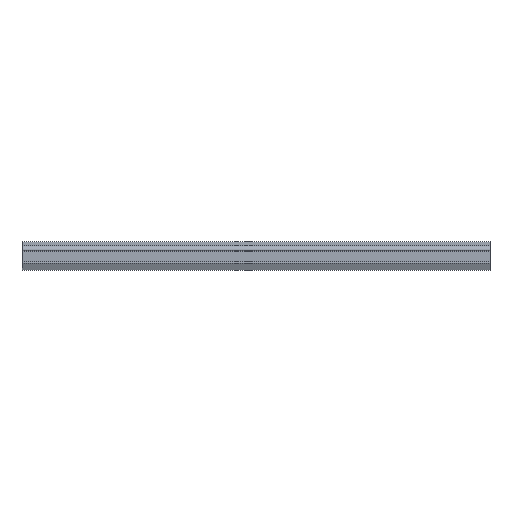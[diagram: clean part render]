
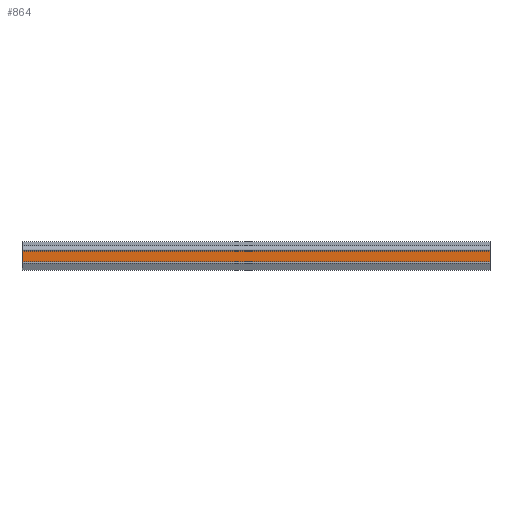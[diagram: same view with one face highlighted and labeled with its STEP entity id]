
A CAD part, top view. The second image highlights one B-rep face of the part: STEP entity #864.
In plain terms, the highlighted planar face has unit normal (0, 0, 1).
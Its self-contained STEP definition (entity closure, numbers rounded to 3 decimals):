
#26 = EDGE_CURVE ( 'NONE', #939, #240, #1021, .T. ) ;
#63 = EDGE_LOOP ( 'NONE', ( #848, #1571, #807, #877 ) ) ;
#75 = CARTESIAN_POINT ( 'NONE',  ( 200., 2.488, 0.84 ) ) ;
#112 = CARTESIAN_POINT ( 'NONE',  ( 0., 2.488, 0.84 ) ) ;
#119 = VERTEX_POINT ( 'NONE', #1061 ) ;
#120 = DIRECTION ( 'NONE',  ( -1., 0., 0. ) ) ;
#139 = DIRECTION ( 'NONE',  ( 0., -1., 0. ) ) ;
#240 = VERTEX_POINT ( 'NONE', #299 ) ;
#299 = CARTESIAN_POINT ( 'NONE',  ( 0., -2.112, 0.84 ) ) ;
#450 = AXIS2_PLACEMENT_3D ( 'NONE', #492, #1128, #1499 ) ;
#492 = CARTESIAN_POINT ( 'NONE',  ( 200., 2.488, 0.84 ) ) ;
#623 = VECTOR ( 'NONE', #905, 1000. ) ;
#666 = CARTESIAN_POINT ( 'NONE',  ( 200., -2.112, 0.84 ) ) ;
#711 = LINE ( 'NONE', #722, #1536 ) ;
#722 = CARTESIAN_POINT ( 'NONE',  ( 200., -2.112, 0.84 ) ) ;
#734 = VECTOR ( 'NONE', #139, 1000. ) ;
#786 = LINE ( 'NONE', #1532, #1472 ) ;
#791 = FACE_OUTER_BOUND ( 'NONE', #63, .T. ) ;
#807 = ORIENTED_EDGE ( 'NONE', *, *, #1410, .F. ) ;
#848 = ORIENTED_EDGE ( 'NONE', *, *, #26, .T. ) ;
#864 = ADVANCED_FACE ( 'NONE', ( #791 ), #1003, .F. ) ;
#877 = ORIENTED_EDGE ( 'NONE', *, *, #1508, .T. ) ;
#905 = DIRECTION ( 'NONE',  ( -1., 0., 0. ) ) ;
#939 = VERTEX_POINT ( 'NONE', #112 ) ;
#948 = DIRECTION ( 'NONE',  ( 0., -1., 0. ) ) ;
#1003 = PLANE ( 'NONE',  #450 ) ;
#1021 = LINE ( 'NONE', #1363, #734 ) ;
#1061 = CARTESIAN_POINT ( 'NONE',  ( 200., 2.488, 0.84 ) ) ;
#1128 = DIRECTION ( 'NONE',  ( 0., 0., -1. ) ) ;
#1246 = EDGE_CURVE ( 'NONE', #1370, #240, #711, .T. ) ;
#1363 = CARTESIAN_POINT ( 'NONE',  ( 0., 2.488, 0.84 ) ) ;
#1370 = VERTEX_POINT ( 'NONE', #666 ) ;
#1410 = EDGE_CURVE ( 'NONE', #119, #1370, #786, .T. ) ;
#1419 = LINE ( 'NONE', #75, #623 ) ;
#1472 = VECTOR ( 'NONE', #948, 1000. ) ;
#1499 = DIRECTION ( 'NONE',  ( -1., 0., 0. ) ) ;
#1508 = EDGE_CURVE ( 'NONE', #119, #939, #1419, .T. ) ;
#1532 = CARTESIAN_POINT ( 'NONE',  ( 200., 2.488, 0.84 ) ) ;
#1536 = VECTOR ( 'NONE', #120, 1000. ) ;
#1571 = ORIENTED_EDGE ( 'NONE', *, *, #1246, .F. ) ;
